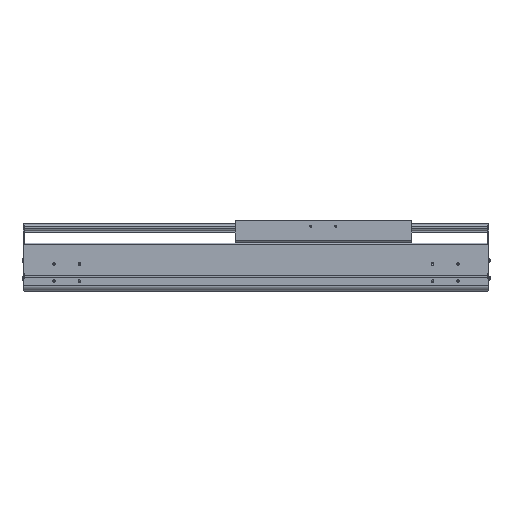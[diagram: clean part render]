
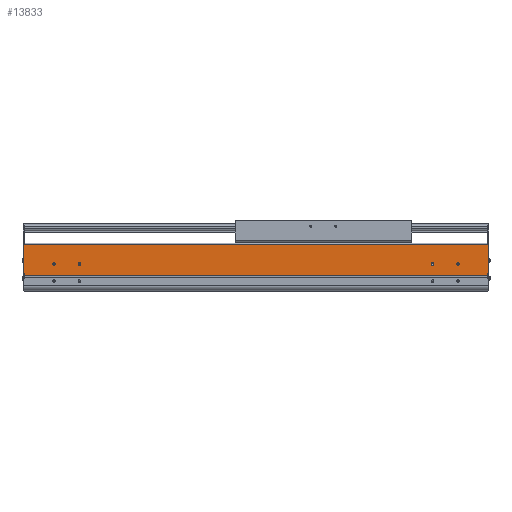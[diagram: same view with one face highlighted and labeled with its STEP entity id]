
A CAD part, top view. The second image highlights one B-rep face of the part: STEP entity #13833.
In plain terms, the highlighted planar face has unit normal (0, 0, 1).
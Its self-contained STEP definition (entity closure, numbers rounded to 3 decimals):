
#46=DIRECTION('',(0.,-1.,0.));
#47=VECTOR('',#46,2.55);
#48=CARTESIAN_POINT('',(0.,34.65,107.));
#49=LINE('',#48,#47);
#2015=DIRECTION('',(1.,0.,0.));
#2016=VECTOR('',#2015,2.);
#2017=CARTESIAN_POINT('',(0.,34.65,107.));
#2018=LINE('',#2017,#2016);
#2023=CARTESIAN_POINT('',(-59.5,54.,107.));
#2024=DIRECTION('',(0.,0.,-1.));
#2025=DIRECTION('',(1.,0.,0.));
#2026=AXIS2_PLACEMENT_3D('',#2023,#2024,#2025);
#2028=CARTESIAN_POINT('',(-59.5,54.,107.));
#2029=DIRECTION('',(0.,0.,-1.));
#2030=DIRECTION('',(-1.,0.,0.));
#2031=AXIS2_PLACEMENT_3D('',#2028,#2029,#2030);
#2033=CARTESIAN_POINT('',(-109.5,54.,107.));
#2034=DIRECTION('',(0.,0.,-1.));
#2035=DIRECTION('',(1.,0.,0.));
#2036=AXIS2_PLACEMENT_3D('',#2033,#2034,#2035);
#2038=CARTESIAN_POINT('',(-109.5,54.,107.));
#2039=DIRECTION('',(0.,0.,-1.));
#2040=DIRECTION('',(-1.,0.,0.));
#2041=AXIS2_PLACEMENT_3D('',#2038,#2039,#2040);
#2043=CARTESIAN_POINT('',(-859.5,54.,107.));
#2044=DIRECTION('',(0.,0.,-1.));
#2045=DIRECTION('',(1.,0.,0.));
#2046=AXIS2_PLACEMENT_3D('',#2043,#2044,#2045);
#2048=CARTESIAN_POINT('',(-859.5,54.,107.));
#2049=DIRECTION('',(0.,0.,-1.));
#2050=DIRECTION('',(-1.,0.,0.));
#2051=AXIS2_PLACEMENT_3D('',#2048,#2049,#2050);
#2053=CARTESIAN_POINT('',(-809.5,54.,107.));
#2054=DIRECTION('',(0.,0.,-1.));
#2055=DIRECTION('',(1.,0.,0.));
#2056=AXIS2_PLACEMENT_3D('',#2053,#2054,#2055);
#2058=CARTESIAN_POINT('',(-809.5,54.,107.));
#2059=DIRECTION('',(0.,0.,-1.));
#2060=DIRECTION('',(-1.,0.,0.));
#2061=AXIS2_PLACEMENT_3D('',#2058,#2059,#2060);
#2063=DIRECTION('',(0.,-1.,0.));
#2064=VECTOR('',#2063,2.55);
#2065=CARTESIAN_POINT('',(-919.,34.65,107.));
#2066=LINE('',#2065,#2064);
#2067=DIRECTION('',(0.,-1.,0.));
#2068=VECTOR('',#2067,58.85);
#2069=CARTESIAN_POINT('',(-921.,93.5,107.));
#2070=LINE('',#2069,#2068);
#2071=DIRECTION('',(0.,1.,0.));
#2072=VECTOR('',#2071,58.85);
#2073=CARTESIAN_POINT('',(2.,34.65,107.));
#2074=LINE('',#2073,#2072);
#2075=DIRECTION('',(1.,0.,0.));
#2076=VECTOR('',#2075,919.);
#2077=CARTESIAN_POINT('',(-919.,32.1,107.));
#2078=LINE('',#2077,#2076);
#2187=DIRECTION('',(1.,0.,0.));
#2188=VECTOR('',#2187,2.);
#2189=CARTESIAN_POINT('',(-921.,34.65,107.));
#2190=LINE('',#2189,#2188);
#3808=DIRECTION('',(-1.,0.,0.));
#3809=VECTOR('',#3808,923.);
#3810=CARTESIAN_POINT('',(2.,93.5,107.));
#3811=LINE('',#3810,#3809);
#8813=CARTESIAN_POINT('',(-921.,34.65,107.));
#8814=VERTEX_POINT('',#8813);
#8815=CARTESIAN_POINT('',(-921.,93.5,107.));
#8816=VERTEX_POINT('',#8815);
#9045=CARTESIAN_POINT('',(-919.,32.1,107.));
#9046=VERTEX_POINT('',#9045);
#9305=CARTESIAN_POINT('',(0.,32.1,107.));
#9306=VERTEX_POINT('',#9305);
#9307=CARTESIAN_POINT('',(-57.,54.,107.));
#9308=CARTESIAN_POINT('',(-62.,54.,107.));
#9309=VERTEX_POINT('',#9307);
#9310=VERTEX_POINT('',#9308);
#9311=CARTESIAN_POINT('',(-107.,54.,107.));
#9312=CARTESIAN_POINT('',(-112.,54.,107.));
#9313=VERTEX_POINT('',#9311);
#9314=VERTEX_POINT('',#9312);
#9315=CARTESIAN_POINT('',(-857.,54.,107.));
#9316=CARTESIAN_POINT('',(-862.,54.,107.));
#9317=VERTEX_POINT('',#9315);
#9318=VERTEX_POINT('',#9316);
#9319=CARTESIAN_POINT('',(-807.,54.,107.));
#9320=CARTESIAN_POINT('',(-812.,54.,107.));
#9321=VERTEX_POINT('',#9319);
#9322=VERTEX_POINT('',#9320);
#10118=CARTESIAN_POINT('',(2.,34.65,107.));
#10119=VERTEX_POINT('',#10118);
#10120=CARTESIAN_POINT('',(2.,93.5,107.));
#10121=VERTEX_POINT('',#10120);
#10572=CARTESIAN_POINT('',(0.,34.65,107.));
#10573=VERTEX_POINT('',#10572);
#10652=CARTESIAN_POINT('',(-919.,34.65,107.));
#10653=VERTEX_POINT('',#10652);
#13790=CARTESIAN_POINT('',(-459.5,62.8,107.));
#13791=DIRECTION('',(0.,0.,1.));
#13792=DIRECTION('',(0.,-1.,0.));
#13793=AXIS2_PLACEMENT_3D('',#13790,#13791,#13792);
#13794=PLANE('',#13793);
#13795=ORIENTED_EDGE('',*,*,#11792,.F.);
#13797=ORIENTED_EDGE('',*,*,#13796,.F.);
#13799=ORIENTED_EDGE('',*,*,#13798,.F.);
#13801=ORIENTED_EDGE('',*,*,#13800,.F.);
#13802=ORIENTED_EDGE('',*,*,#13588,.F.);
#13803=ORIENTED_EDGE('',*,*,#13783,.F.);
#13804=ORIENTED_EDGE('',*,*,#11412,.T.);
#13806=ORIENTED_EDGE('',*,*,#13805,.F.);
#13807=EDGE_LOOP('',(#13795,#13797,#13799,#13801,#13802,#13803,#13804,#13806));
#13808=FACE_OUTER_BOUND('',#13807,.F.);
#13810=ORIENTED_EDGE('',*,*,#13809,.F.);
#13812=ORIENTED_EDGE('',*,*,#13811,.F.);
#13813=EDGE_LOOP('',(#13810,#13812));
#13814=FACE_BOUND('',#13813,.F.);
#13816=ORIENTED_EDGE('',*,*,#13815,.F.);
#13818=ORIENTED_EDGE('',*,*,#13817,.F.);
#13819=EDGE_LOOP('',(#13816,#13818));
#13820=FACE_BOUND('',#13819,.F.);
#13822=ORIENTED_EDGE('',*,*,#13821,.F.);
#13824=ORIENTED_EDGE('',*,*,#13823,.F.);
#13825=EDGE_LOOP('',(#13822,#13824));
#13826=FACE_BOUND('',#13825,.F.);
#13828=ORIENTED_EDGE('',*,*,#13827,.F.);
#13830=ORIENTED_EDGE('',*,*,#13829,.F.);
#13831=EDGE_LOOP('',(#13828,#13830));
#13832=FACE_BOUND('',#13831,.F.);
#13833=ADVANCED_FACE('',(#13808,#13814,#13820,#13826,#13832),#13794,.T.);
#2027=CIRCLE('',#2026,2.5);
#2032=CIRCLE('',#2031,2.5);
#2037=CIRCLE('',#2036,2.5);
#2042=CIRCLE('',#2041,2.5);
#2047=CIRCLE('',#2046,2.5);
#2052=CIRCLE('',#2051,2.5);
#2057=CIRCLE('',#2056,2.5);
#2062=CIRCLE('',#2061,2.5);
#11412=EDGE_CURVE('',#10573,#9306,#49,.T.);
#11792=EDGE_CURVE('',#10653,#9046,#2066,.T.);
#13588=EDGE_CURVE('',#10119,#10121,#2074,.T.);
#13783=EDGE_CURVE('',#10573,#10119,#2018,.T.);
#13796=EDGE_CURVE('',#8814,#10653,#2190,.T.);
#13798=EDGE_CURVE('',#8816,#8814,#2070,.T.);
#13800=EDGE_CURVE('',#10121,#8816,#3811,.T.);
#13805=EDGE_CURVE('',#9046,#9306,#2078,.T.);
#13809=EDGE_CURVE('',#9313,#9314,#2037,.T.);
#13811=EDGE_CURVE('',#9314,#9313,#2042,.T.);
#13815=EDGE_CURVE('',#9317,#9318,#2047,.T.);
#13817=EDGE_CURVE('',#9318,#9317,#2052,.T.);
#13821=EDGE_CURVE('',#9321,#9322,#2057,.T.);
#13823=EDGE_CURVE('',#9322,#9321,#2062,.T.);
#13827=EDGE_CURVE('',#9309,#9310,#2027,.T.);
#13829=EDGE_CURVE('',#9310,#9309,#2032,.T.);
